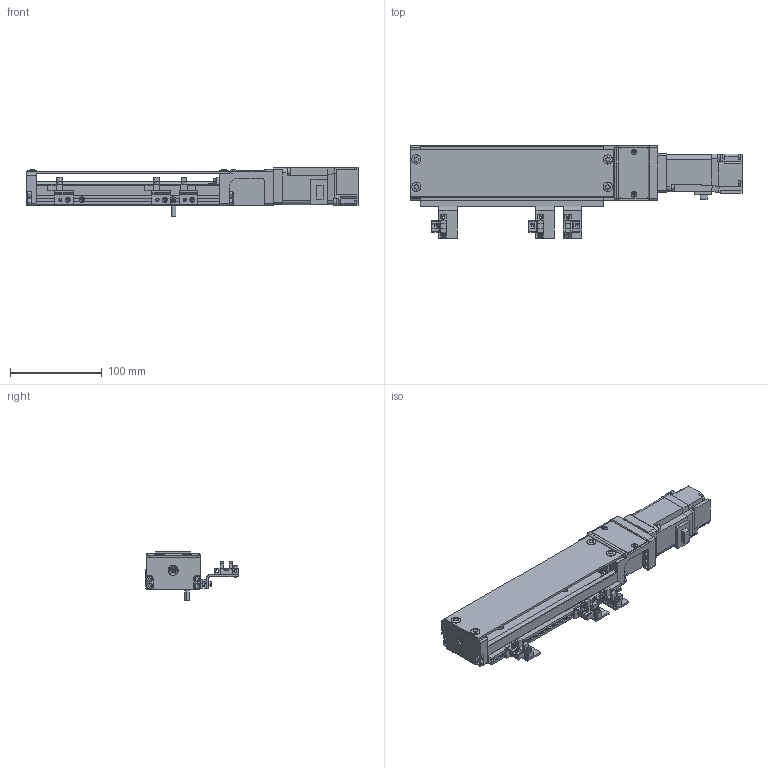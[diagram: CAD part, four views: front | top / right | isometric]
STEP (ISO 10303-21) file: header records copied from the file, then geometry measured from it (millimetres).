
FILE_DESCRIPTION (( 'STEP AP214' ), '1' );
FILE_NAME ('20_X-Y-Theta_mechanism_Base.STEP', '2021-02-16T01:31:47', ( '' ), ( '' ), 'SwSTEP 2.0', 'SolidWorks 2017', '' );
FILE_SCHEMA (( 'AUTOMOTIVE_DESIGN' ));
Length unit declared in the file: millimetre
Products named in the file (20): 0296_005_FPML65; 0296_010_SCBZ3-6; NEZI-1_SCPW21-6-8; 0296_001_LX3010C-S2-A3040-200; 0296_004_SENAZ32H-200-V50-W150; 0296_302_SCB4-12; BODY_SCPW21-6-8; A3040_LX3010C-S2-A3040-200; 0296_011_SQN3-20-8; END PLATE2_LX3010C-S2-A3040-200; _0296_SA01; RALE_LX3010C-S2-A3040-200; 0296_301_SCB3-10; 20_X-Y-Theta_mechanism_Base; 0296_210_Bracket; COVER_LX3010C-S2-A3040-200; 0296_006_SCPW21-6-8; BRACKET1_LX3010C-S2-A3040-200; 0296_102_Servo_Motor_100W; 0296_303_SCB5-15
Assembly tree (31 placements, depth 4):
  20_X-Y-Theta_mechanism_Base
    _0296_SA01
      0296_001_LX3010C-S2-A3040-200
        RALE_LX3010C-S2-A3040-200
        BRACKET1_LX3010C-S2-A3040-200
        END PLATE2_LX3010C-S2-A3040-200
        COVER_LX3010C-S2-A3040-200
        A3040_LX3010C-S2-A3040-200
      0296_004_SENAZ32H-200-V50-W150
      0296_005_FPML65  x3
      0296_006_SCPW21-6-8
        BODY_SCPW21-6-8
        NEZI-1_SCPW21-6-8  x2
      0296_010_SCBZ3-6  x4
      0296_011_SQN3-20-8  x3
      0296_102_Servo_Motor_100W
      0296_210_Bracket  x3
      0296_301_SCB3-10  x3
      0296_302_SCB4-12
      0296_303_SCB5-15
Bounding box: 362.4 x 101 x 53.8 mm (x, y, z)
Volume: 446856 mm3; surface area: 157944.1 mm2
Topology: 40 solids, 40 shells, 1683 faces, 4229 edges, 2682 vertices
Faces by surface type: plane 905, cylinder 538, cone 222, torus 16, sphere 2
Entity records: 55052 total; most frequent: CARTESIAN_POINT 7528, DIRECTION 7043, ORIENTED_EDGE 6474, EDGE_CURVE 3237, AXIS2_PLACEMENT_3D 2528, VERTEX_POINT 2082, LINE 1987, VECTOR 1987
